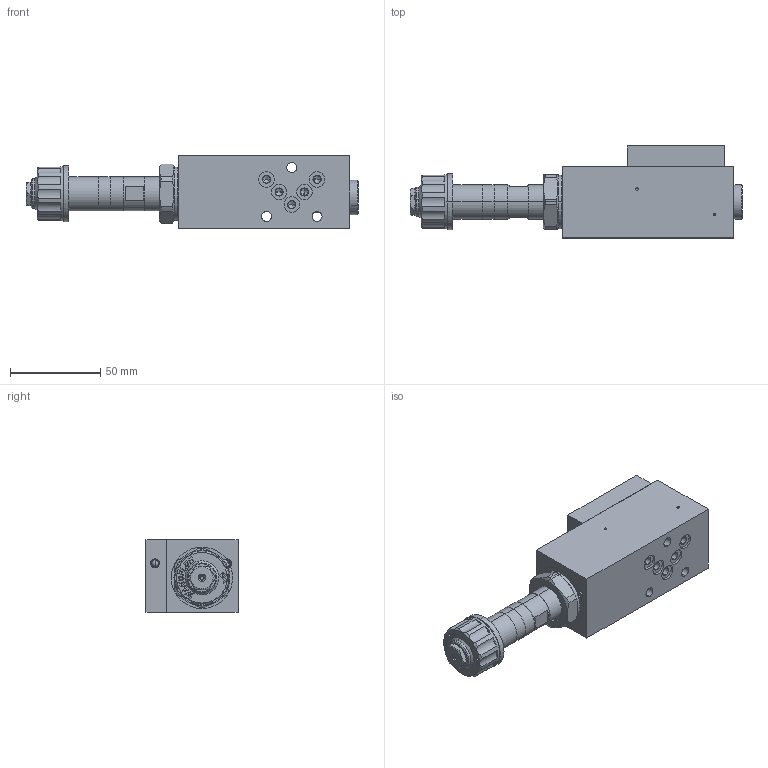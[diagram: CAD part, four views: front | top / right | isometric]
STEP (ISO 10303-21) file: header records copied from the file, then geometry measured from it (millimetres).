
FILE_DESCRIPTION (( 'STEP AP214' ), '1' );
FILE_NAME ('B.PFA04-P.STEP', '2017-03-23T14:53:45', ( '' ), ( '' ), 'SwSTEP 2.0', 'SolidWorks 2016', '' );
FILE_SCHEMA (( 'AUTOMOTIVE_DESIGN' ));
Length unit declared in the file: millimetre
Products named in the file (1): B.PFA04-P
Bounding box: 184 x 51 x 40 mm (x, y, z)
Volume: 201523.7 mm3; surface area: 41610.2 mm2
Topology: 4 solids, 8 shells, 475 faces, 1163 edges, 730 vertices
Faces by surface type: plane 206, cylinder 149, cone 88, bspline 16, sphere 8, torus 8
Entity records: 20110 total; most frequent: CARTESIAN_POINT 3953, DIRECTION 2355, ORIENTED_EDGE 2270, EDGE_CURVE 1135, AXIS2_PLACEMENT_3D 870, VERTEX_POINT 730, LINE 615, VECTOR 615
